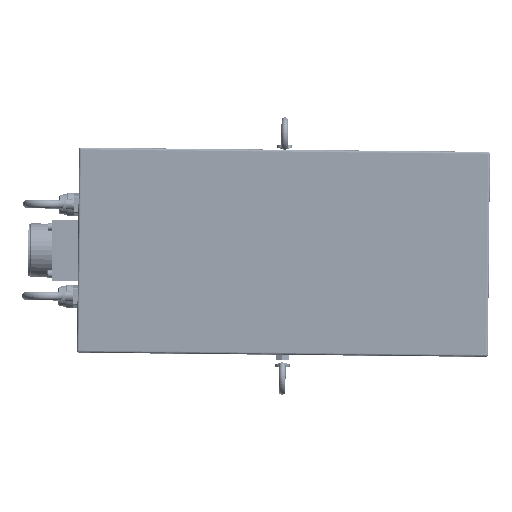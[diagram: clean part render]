
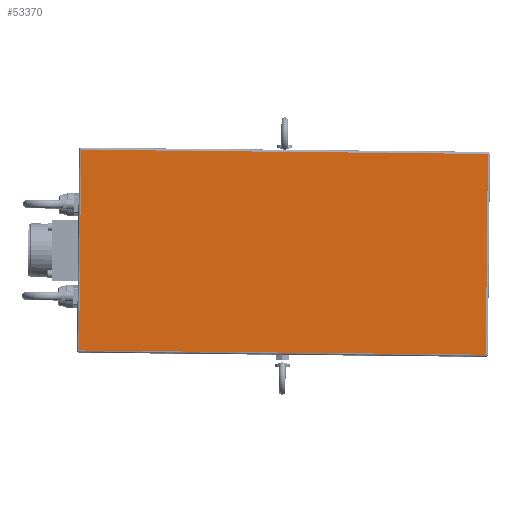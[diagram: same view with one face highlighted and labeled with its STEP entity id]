
A CAD part, top view. The second image highlights one B-rep face of the part: STEP entity #53370.
In plain terms, the highlighted planar face has unit normal (0, 0, 1).
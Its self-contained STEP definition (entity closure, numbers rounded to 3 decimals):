
#53331=CARTESIAN_POINT('',(-101.478,98.56,142.52));
#53332=DIRECTION('',(0.01,1.,0.));
#53333=DIRECTION('',(0.,0.,1.));
#53334=AXIS2_PLACEMENT_3D('',#53331,#53333,#53332);
#53335=PLANE('',#53334);
#53336=CARTESIAN_POINT('',(89.01,-95.931,142.52));
#53337=VERTEX_POINT('',#53336);
#53338=CARTESIAN_POINT('',(90.986,94.059,142.52));
#53339=VERTEX_POINT('',#53338);
#53340=CARTESIAN_POINT('',(89.01,-95.931,142.52));
#53341=DIRECTION('',(0.01,1.,0.));
#53342=VECTOR('',#53341,190.);
#53343=LINE('',#53340,#53342);
#53344=EDGE_CURVE('',#53337,#53339,#53343,.T.);
#53345=ORIENTED_EDGE('E103',*,*,#53344,.T.);
#53346=CARTESIAN_POINT('',(-293.994,98.062,142.52));
#53347=VERTEX_POINT('',#53346);
#53348=CARTESIAN_POINT('',(90.986,94.059,142.52));
#53349=DIRECTION('',(-1.,0.01,0.));
#53350=VECTOR('',#53349,385.);
#53351=LINE('',#53348,#53350);
#53352=EDGE_CURVE('',#53339,#53347,#53351,.T.);
#53353=ORIENTED_EDGE('E108',*,*,#53352,.T.);
#53354=CARTESIAN_POINT('',(-295.969,-91.928,142.52));
#53355=VERTEX_POINT('',#53354);
#53356=CARTESIAN_POINT('',(-293.994,98.062,142.52));
#53357=DIRECTION('',(-0.01,-1.,0.));
#53358=VECTOR('',#53357,190.);
#53359=LINE('',#53356,#53358);
#53360=EDGE_CURVE('',#53347,#53355,#53359,.T.);
#53361=ORIENTED_EDGE('E110',*,*,#53360,.T.);
#53362=CARTESIAN_POINT('',(-295.969,-91.928,142.52));
#53363=DIRECTION('',(1.,-0.01,0.));
#53364=VECTOR('',#53363,385.);
#53365=LINE('',#53362,#53364);
#53366=EDGE_CURVE('',#53355,#53337,#53365,.T.);
#53367=ORIENTED_EDGE('E106',*,*,#53366,.T.);
#53368=EDGE_LOOP('',(#53345,#53353,#53361,#53367));
#53369=FACE_OUTER_BOUND('',#53368,.T.);
#53370=ADVANCED_FACE('F8',(#53369),#53335,.T.);
